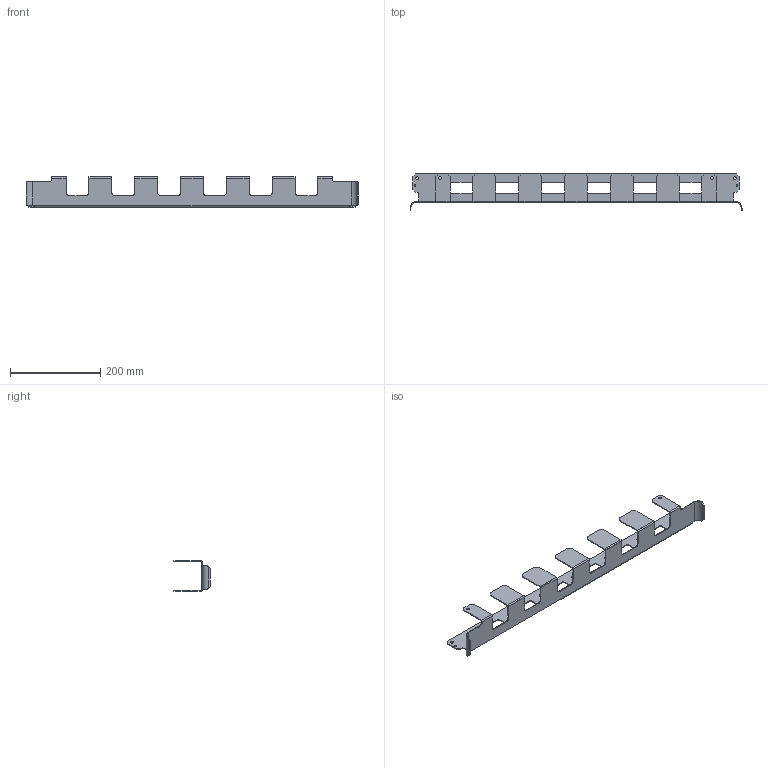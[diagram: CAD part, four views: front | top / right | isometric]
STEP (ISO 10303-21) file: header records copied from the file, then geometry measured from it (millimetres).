
FILE_DESCRIPTION(/* description */ ('HORIZONTAL CABLE MANAGEMENT FOR 36" DEEP - "E" SERIES.'),/* implementation_level */ '2;1');
FILE_NAME(/* name */ '\\Zeus\engineering\Inventor\side GLCC projects\VitaliyL\Website\HCMD36\HCMD36_STP.stp',/* time_stamp */ '2017-06-01T10:04:36-04:00',/* author */ ('VitaliyL'),/* organization */ (''),/* preprocessor_version */ 'ST-DEVELOPER v16.5',/* originating_system */ 'Autodesk Inventor 2017',/* authorisation */ '');
FILE_SCHEMA (('AUTOMOTIVE_DESIGN { 1 0 10303 214 3 1 1 }'));
Length unit declared in the file: inch
Products named in the file (1): HCMD363100
Bounding box: 736.6 x 80.72 x 66.67 mm (x, y, z)
Volume: 159586.9 mm3; surface area: 182473 mm2
Topology: 1 solids, 1 shells, 172 faces, 510 edges, 340 vertices
Faces by surface type: plane 108, cylinder 64
Full cylindrical faces by diameter (mm): 3.962 x2, 6.35 x4
Entity records: 5820 total; most frequent: CARTESIAN_POINT 1017, ORIENTED_EDGE 1008, DIRECTION 986, EDGE_CURVE 504, LINE 368, VECTOR 368, VERTEX_POINT 340, AXIS2_PLACEMENT_3D 309
